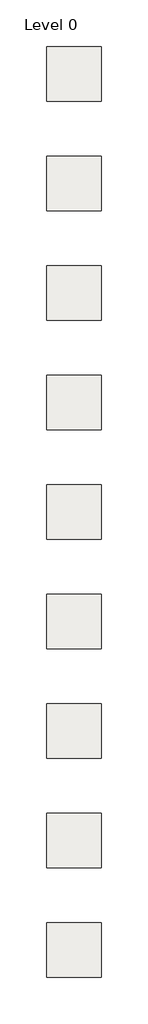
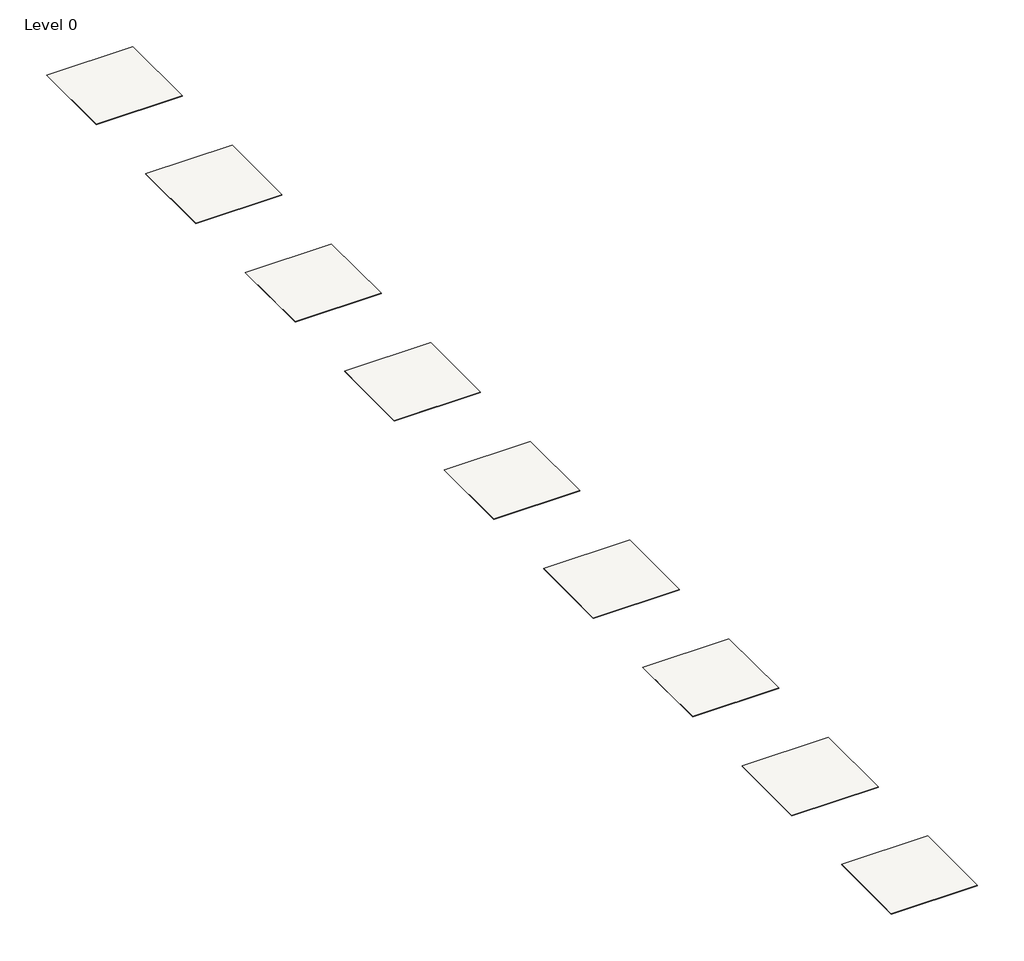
# One storey: 9 coverings.
"""IFC4 building model written with IfcOpenShell, lengths in millimetres."""

import ifcopenshell
import ifcopenshell.guid

model = None  # the IFC model being written
_history = None  # IfcOwnerHistory: only IFC2X3 demands one
_inside = {}  # id of a spatial element -> (the spatial element, [elements in it])
_under = {}  # id of a project, library or spatial element -> (it, [spatial elements below it])
_declared = {}  # id of a project -> (the project, [libraries it declares])
_typed = {}  # id of a type object -> (the type object, [elements of that type])
_made_of = {}  # id of a material, layer set ... -> (it, [elements and type objects made of it])


def new_model(schema):
    """Start an empty IFC model of exactly this schema.

    Asked for "IFC4X3", IfcOpenShell would pick the latest addendum, in which some entities
    have other attributes; the version numbers below select the first issue.
    IFC2X3 requires an IfcOwnerHistory on every rooted entity: one is made here for all.
    """
    global model, _history
    if schema == "IFC4X3":
        model = ifcopenshell.file(schema_version=(4, 3, 0, 0))
    else:
        model = ifcopenshell.file(schema=schema)
    _inside.clear()
    _under.clear()
    _declared.clear()
    _typed.clear()
    _made_of.clear()
    _history = None
    if model.schema == "IFC2X3":
        org = make("IfcOrganization", Name="unknown")
        user = make(
            "IfcPersonAndOrganization",
            ThePerson=make("IfcPerson", FamilyName="unknown"),
            TheOrganization=org,
        )
        app = make(
            "IfcApplication",
            ApplicationDeveloper=org,
            Version="unknown",
            ApplicationFullName="unknown",
            ApplicationIdentifier="unknown",
        )
        _history = make(
            "IfcOwnerHistory",
            OwningUser=user,
            OwningApplication=app,
            ChangeAction="ADDED",
            CreationDate=0,
        )
    return model


def make(cls, **values):
    """One entity of the class cls with the attributes given. An attribute that is None is left unset."""
    return model.create_entity(
        cls, **{name: value for name, value in values.items() if value is not None}
    )


def rooted(cls, **values):
    """An entity with a GlobalId (a new one), such as an element, a storey or a relation."""
    return make(cls, GlobalId=ifcopenshell.guid.new(), OwnerHistory=_history, **values)


def si_unit(unit_type, name, prefix=None):
    """IfcSIUnit, for example si_unit("LENGTHUNIT", "METRE", prefix="MILLI")."""
    return make("IfcSIUnit", UnitType=unit_type, Prefix=prefix, Name=name)


def assignment(units):
    """IfcUnitAssignment: the units of a project."""
    return None if units is None else make("IfcUnitAssignment", Units=units)


def point(xyz):
    """IfcCartesianPoint."""
    return None if xyz is None else make("IfcCartesianPoint", Coordinates=xyz)


def direction(xyz):
    """IfcDirection."""
    return None if xyz is None else make("IfcDirection", DirectionRatios=xyz)


def frame(location, z_axis=None, x_axis=None):
    """IfcAxis2Placement3D, a coordinate frame: its origin and axes. An axis left out is left unset."""
    return make(
        "IfcAxis2Placement3D",
        Location=point(location),
        Axis=direction(z_axis),
        RefDirection=direction(x_axis),
    )


def origin():
    """The frame at (0, 0, 0) with its axes left unset."""
    return frame((0.0, 0.0, 0.0))


def place(relative_to, where):
    """IfcLocalPlacement: puts the frame where relative to a parent placement (None: the world)."""
    return make(
        "IfcLocalPlacement", PlacementRelTo=relative_to, RelativePlacement=where
    )


def context(
    kind, dimensions, precision=None, world=None, true_north=None, identifier=None
):
    """IfcGeometricRepresentationContext, for example the 3D "Model" context."""
    return make(
        "IfcGeometricRepresentationContext",
        ContextIdentifier=identifier,
        ContextType=kind,
        CoordinateSpaceDimension=dimensions,
        Precision=precision,
        WorldCoordinateSystem=world,
        TrueNorth=true_north,
    )


def project(units=None, contexts=None):
    """IfcProject with its units and contexts."""
    return rooted(
        "IfcProject",
        Name="project",
        RepresentationContexts=contexts,
        UnitsInContext=assignment(units),
    )


def spatial(cls, under=None, at=None, **own):
    """A site, building, storey or space (cls), placed at a placement, below another one or the project."""
    s = rooted(cls, ObjectPlacement=at, **own)
    if under is not None:
        _under.setdefault(under.id(), (under, []))[1].append(s)
    return s


def polyline(points):
    """IfcPolyline through the points."""
    return make("IfcPolyline", Points=[point(p) for p in points])


def outline(outer, holes=None, kind="AREA"):
    """IfcArbitraryClosedProfileDef: a profile drawn as a closed curve; with holes, ...WithVoids."""
    if holes is None:
        return make("IfcArbitraryClosedProfileDef", ProfileType=kind, OuterCurve=outer)
    return make(
        "IfcArbitraryProfileDefWithVoids",
        ProfileType=kind,
        OuterCurve=outer,
        InnerCurves=holes,
    )


def extrude(swept, where, along, depth):
    """IfcExtrudedAreaSolid: the profile swept, set in the frame where, extruded along a direction by depth."""
    return make(
        "IfcExtrudedAreaSolid",
        SweptArea=swept,
        Position=where,
        ExtrudedDirection=direction(along),
        Depth=depth,
    )


def shape(context_of_items, identifier, shape_type, items):
    """IfcShapeRepresentation: the items that make up one representation, for example the "Body"."""
    return make(
        "IfcShapeRepresentation",
        ContextOfItems=context_of_items,
        RepresentationIdentifier=identifier,
        RepresentationType=shape_type,
        Items=items,
    )


def made_of(thing, what):
    """Note that an element or type object is made of a material, layer set ...; save() writes the relation."""
    if what is not None:
        _made_of.setdefault(what.id(), (what, []))[1].append(thing)
    return thing


def element(
    cls,
    number,
    at=None,
    inside=None,
    cuts=None,
    type_object=None,
    material=None,
    context=None,
    identifier="Body",
    shape_type=None,
    held_by="IfcProductDefinitionShape",
    body=None,
    shapes=None,
    **own,
):
    """One element of the class cls, such as IfcWall. Its Tag is "e" and its number.

    at: its placement. inside: the storey or other place that contains it. cuts: it is an
    opening in that element (IfcRelVoidsElement). A single representation is given by context,
    identifier, shape_type and body (its items); several are given by shapes. held_by: the class
    of the entity that holds the representations. save() writes the other relations.
    """
    e = rooted(cls, Tag="e%d" % number, ObjectPlacement=at, **own)
    if body is not None:
        shapes = [shape(context, identifier, shape_type, body)]
    if shapes is not None:
        e.Representation = make(held_by, Representations=shapes)
    if inside is not None:
        _inside.setdefault(inside.id(), (inside, []))[1].append(e)
    if cuts is not None:
        rooted(
            "IfcRelVoidsElement", RelatingBuildingElement=cuts, RelatedOpeningElement=e
        )
    if type_object is not None:
        _typed.setdefault(type_object.id(), (type_object, []))[1].append(e)
    return made_of(e, material)


def aggregate(whole, parts):
    """IfcRelAggregates: a whole, such as a stair, and the parts it consists of."""
    return rooted("IfcRelAggregates", RelatingObject=whole, RelatedObjects=parts)


def save(model, path):
    """Write the relations noted so far, then the file.

    IfcRelAggregates (storeys below a building ...), IfcRelContainedInSpatialStructure (elements
    in a storey), IfcRelDefinesByType, IfcRelAssociatesMaterial and IfcRelDeclares: one each for
    every whole, place, type object, material and project.
    """
    for whole, parts in _under.values():
        aggregate(whole, parts)
    for where, things in _inside.values():
        rooted(
            "IfcRelContainedInSpatialStructure",
            RelatedElements=things,
            RelatingStructure=where,
        )
    for kind, things in _typed.values():
        rooted("IfcRelDefinesByType", RelatedObjects=things, RelatingType=kind)
    for what, things in _made_of.values():
        rooted("IfcRelAssociatesMaterial", RelatedObjects=things, RelatingMaterial=what)
    for by, libraries in _declared.values():
        rooted("IfcRelDeclares", RelatingContext=by, RelatedDefinitions=libraries)
    model.write(path)


model = new_model("IFC4")

# Units and contexts
model_context = context("Model", 3, world=origin())
ifc_project = project(units=[si_unit("LENGTHUNIT", "METRE", prefix="MILLI")], contexts=[model_context])

# Site, building, storey
site = spatial("IfcSite", under=ifc_project)
building = spatial("IfcBuilding", under=site)
storey = spatial("IfcBuildingStorey", under=building, Name="Level 0", Elevation=0.0)

# Coverings
placement = place(None, origin())
element("IfcCovering", 1, ObjectType="Archify_ECCarpets_Carpets_DawsonFalls_Canyon5417", at=placement, inside=storey, context=model_context, shape_type="SweptSolid", body=[
    extrude(outline(polyline([(2500.0, 0.0), (2500.0, -2500.0), (0.0, -2500.0), (0.0, 0.0), (2500.0, 0.0)])), frame((0.0, 0.0, -12.5), z_axis=(0.0, 0.0, 1.0), x_axis=(1.0, 0.0, 0.0)), (0.0, 0.0, 1.0), 12.5),
])
element("IfcCovering", 2, ObjectType="Archify_ECCarpets_Carpets_DawsonFalls_Cascade5423", at=placement, inside=storey, context=model_context, shape_type="SweptSolid", body=[
    extrude(outline(polyline([(2500.0, -5000.0), (2500.0, -7500.0), (0.0, -7500.0), (0.0, -5000.0), (2500.0, -5000.0)])), frame((0.0, 0.0, -12.5), z_axis=(0.0, 0.0, 1.0), x_axis=(1.0, 0.0, 0.0)), (0.0, 0.0, 1.0), 12.5),
])
element("IfcCovering", 3, ObjectType="Archify_ECCarpets_Carpets_DawsonFalls_Frosted5488", at=placement, inside=storey, context=model_context, shape_type="SweptSolid", body=[
    extrude(outline(polyline([(2500.0, -10000.0), (2500.0, -12500.0), (0.0, -12500.0), (0.0, -10000.0), (2500.0, -10000.0)])), frame((0.0, 0.0, -12.5), z_axis=(0.0, 0.0, 1.0), x_axis=(1.0, 0.0, 0.0)), (0.0, 0.0, 1.0), 12.5),
])
element("IfcCovering", 4, ObjectType="Archify_ECCarpets_Carpets_DawsonFalls_Harmony5411", at=placement, inside=storey, context=model_context, shape_type="SweptSolid", body=[
    extrude(outline(polyline([(2500.0, -15000.0), (2500.0, -17500.0), (0.0, -17500.0), (0.0, -15000.0), (2500.0, -15000.0)])), frame((0.0, 0.0, -12.5), z_axis=(0.0, 0.0, 1.0), x_axis=(1.0, 0.0, 0.0)), (0.0, 0.0, 1.0), 12.5),
])
element("IfcCovering", 5, ObjectType="Archify_ECCarpets_Carpets_DawsonFalls_Meadow5403", at=placement, inside=storey, context=model_context, shape_type="SweptSolid", body=[
    extrude(outline(polyline([(2500.0, -20000.0), (2500.0, -22500.0), (0.0, -22500.0), (0.0, -20000.0), (2500.0, -20000.0)])), frame((0.0, 0.0, -12.5), z_axis=(0.0, 0.0, 1.0), x_axis=(1.0, 0.0, 0.0)), (0.0, 0.0, 1.0), 12.5),
])
element("IfcCovering", 6, ObjectType="Archify_ECCarpets_Carpets_DawsonFalls_Mist5428", at=placement, inside=storey, context=model_context, shape_type="SweptSolid", body=[
    extrude(outline(polyline([(2500.0, -25000.0), (2500.0, -27500.0), (0.0, -27500.0), (0.0, -25000.0), (2500.0, -25000.0)])), frame((0.0, 0.0, -12.5), z_axis=(0.0, 0.0, 1.0), x_axis=(1.0, 0.0, 0.0)), (0.0, 0.0, 1.0), 12.5),
])
element("IfcCovering", 7, ObjectType="Archify_ECCarpets_Carpets_DawsonFalls_Serenity5447", at=placement, inside=storey, context=model_context, shape_type="SweptSolid", body=[
    extrude(outline(polyline([(2500.0, -30000.0), (2500.0, -32500.0), (0.0, -32500.0), (0.0, -30000.0), (2500.0, -30000.0)])), frame((0.0, 0.0, -12.5), z_axis=(0.0, 0.0, 1.0), x_axis=(1.0, 0.0, 0.0)), (0.0, 0.0, 1.0), 12.5),
])
element("IfcCovering", 8, ObjectType="Archify_ECCarpets_Carpets_DawsonFalls_Summit5445", at=placement, inside=storey, context=model_context, shape_type="SweptSolid", body=[
    extrude(outline(polyline([(2500.0, -35000.0), (2500.0, -37500.0), (0.0, -37500.0), (0.0, -35000.0), (2500.0, -35000.0)])), frame((0.0, 0.0, -12.5), z_axis=(0.0, 0.0, 1.0), x_axis=(1.0, 0.0, 0.0)), (0.0, 0.0, 1.0), 12.5),
])
element("IfcCovering", 9, ObjectType="Archify_ECCarpets_Carpets_DawsonFalls_Sunlit5454", at=placement, inside=storey, context=model_context, shape_type="SweptSolid", body=[
    extrude(outline(polyline([(2500.0, -40000.0), (2500.0, -42500.0), (0.0, -42500.0), (0.0, -40000.0), (2500.0, -40000.0)])), frame((0.0, 0.0, -12.5), z_axis=(0.0, 0.0, 1.0), x_axis=(1.0, 0.0, 0.0)), (0.0, 0.0, 1.0), 12.5),
])

save(model, "model.ifc")
